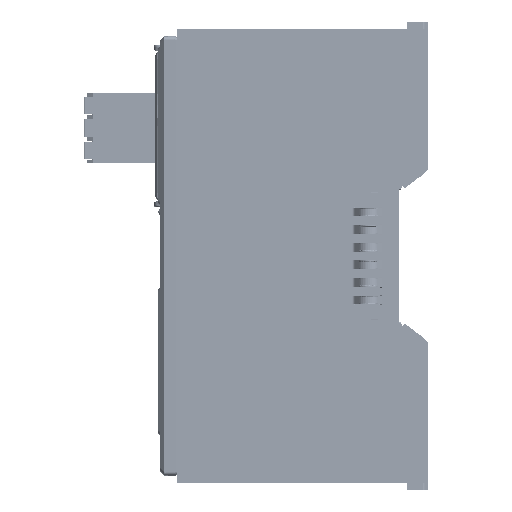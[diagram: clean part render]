
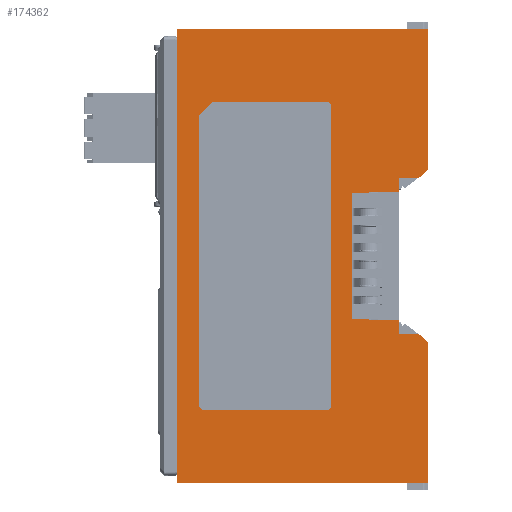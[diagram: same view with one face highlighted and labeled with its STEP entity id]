
A CAD part, left-side view. The second image highlights one B-rep face of the part: STEP entity #174362.
In plain terms, the highlighted planar face has unit normal (-1, 0, 0).
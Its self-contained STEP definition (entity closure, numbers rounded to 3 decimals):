
#5=DIRECTION('',(0.,0.,1.));
#6=VECTOR('',#5,31.68);
#7=CARTESIAN_POINT('',(-21.5,-28.5,19.82));
#8=LINE('',#7,#6);
#30=DIRECTION('',(0.,-1.,0.));
#31=VECTOR('',#30,57.);
#32=CARTESIAN_POINT('',(-21.5,28.5,51.5));
#33=LINE('',#32,#31);
#1424=CARTESIAN_POINT('',(-21.5,-28.2,-19.82));
#1425=DIRECTION('',(-1.,0.,0.));
#1426=DIRECTION('',(0.,-1.,0.));
#1427=AXIS2_PLACEMENT_3D('',#1424,#1425,#1426);
#1429=DIRECTION('',(0.,-1.,0.));
#1430=VECTOR('',#1429,57.);
#1431=CARTESIAN_POINT('',(-21.5,28.5,-51.5));
#1432=LINE('',#1431,#1430);
#1433=DIRECTION('',(0.,0.,1.));
#1434=VECTOR('',#1433,103.);
#1435=CARTESIAN_POINT('',(-21.5,28.5,-51.5));
#1436=LINE('',#1435,#1434);
#1437=CARTESIAN_POINT('',(-21.5,-28.2,19.82));
#1438=DIRECTION('',(-1.,0.,0.));
#1439=DIRECTION('',(0.,-0.725,-0.688));
#1440=AXIS2_PLACEMENT_3D('',#1437,#1438,#1439);
#1442=DIRECTION('',(0.,-0.688,0.725));
#1443=VECTOR('',#1442,2.301);
#1444=CARTESIAN_POINT('',(-21.5,-26.834,17.945));
#1445=LINE('',#1444,#1443);
#1446=CARTESIAN_POINT('',(-21.5,-26.616,18.151));
#1447=DIRECTION('',(-1.,0.,0.));
#1448=DIRECTION('',(0.,-0.026,-1.));
#1449=AXIS2_PLACEMENT_3D('',#1446,#1447,#1448);
#1451=DIRECTION('',(0.,1.,-0.026));
#1452=VECTOR('',#1451,4.826);
#1453=CARTESIAN_POINT('',(-21.5,-26.624,17.851));
#1454=LINE('',#1453,#1452);
#1455=DIRECTION('',(0.,0.,-1.));
#1456=VECTOR('',#1455,3.113);
#1457=CARTESIAN_POINT('',(-21.5,-21.8,17.725));
#1458=LINE('',#1457,#1456);
#1459=DIRECTION('',(0.,1.,-0.026));
#1460=VECTOR('',#1459,10.704);
#1461=CARTESIAN_POINT('',(-21.5,-21.8,14.612));
#1462=LINE('',#1461,#1460);
#1463=DIRECTION('',(0.,0.,1.));
#1464=VECTOR('',#1463,28.663);
#1465=CARTESIAN_POINT('',(-21.5,-11.1,-14.331));
#1466=LINE('',#1465,#1464);
#1467=DIRECTION('',(0.,-1.,-0.026));
#1468=VECTOR('',#1467,10.704);
#1469=CARTESIAN_POINT('',(-21.5,-11.1,-14.331));
#1470=LINE('',#1469,#1468);
#1471=DIRECTION('',(0.,0.,-1.));
#1472=VECTOR('',#1471,3.113);
#1473=CARTESIAN_POINT('',(-21.5,-21.8,-14.612));
#1474=LINE('',#1473,#1472);
#1475=DIRECTION('',(0.,1.,0.026));
#1476=VECTOR('',#1475,4.826);
#1477=CARTESIAN_POINT('',(-21.5,-26.624,-17.851));
#1478=LINE('',#1477,#1476);
#1479=CARTESIAN_POINT('',(-21.5,-26.616,-18.151));
#1480=DIRECTION('',(-1.,0.,0.));
#1481=DIRECTION('',(0.,-0.725,0.688));
#1482=AXIS2_PLACEMENT_3D('',#1479,#1480,#1481);
#1484=DIRECTION('',(0.,0.688,0.725));
#1485=VECTOR('',#1484,2.301);
#1486=CARTESIAN_POINT('',(-21.5,-28.418,-19.614));
#1487=LINE('',#1486,#1485);
#1488=DIRECTION('',(0.,-1.,0.));
#1489=VECTOR('',#1488,28.);
#1490=CARTESIAN_POINT('',(-21.5,22.5,-35.));
#1491=LINE('',#1490,#1489);
#1492=DIRECTION('',(0.,0.,1.));
#1493=VECTOR('',#1492,68.);
#1494=CARTESIAN_POINT('',(-21.5,-6.5,-34.));
#1495=LINE('',#1494,#1493);
#1496=DIRECTION('',(0.,1.,0.));
#1497=VECTOR('',#1496,26.);
#1498=CARTESIAN_POINT('',(-21.5,-5.5,35.));
#1499=LINE('',#1498,#1497);
#1500=DIRECTION('',(0.,0.,-1.));
#1501=VECTOR('',#1500,66.);
#1502=CARTESIAN_POINT('',(-21.5,23.5,32.));
#1503=LINE('',#1502,#1501);
#1516=DIRECTION('',(0.,0.,1.));
#1517=VECTOR('',#1516,31.68);
#1518=CARTESIAN_POINT('',(-21.5,-28.5,-51.5));
#1519=LINE('',#1518,#1517);
#136823=CARTESIAN_POINT('',(-21.5,22.5,-34.));
#136824=DIRECTION('',(1.,0.,0.));
#136825=DIRECTION('',(0.,0.,-1.));
#136826=AXIS2_PLACEMENT_3D('',#136823,#136824,#136825);
#136871=DIRECTION('',(0.,-0.707,0.707));
#136872=VECTOR('',#136871,4.243);
#136873=CARTESIAN_POINT('',(-21.5,23.5,32.));
#136874=LINE('',#136873,#136872);
#136883=CARTESIAN_POINT('',(-21.5,-5.5,34.));
#136884=DIRECTION('',(1.,0.,0.));
#136885=DIRECTION('',(0.,0.,1.));
#136886=AXIS2_PLACEMENT_3D('',#136883,#136884,#136885);
#136896=CARTESIAN_POINT('',(-21.5,-5.5,-34.));
#136897=DIRECTION('',(1.,0.,0.));
#136898=DIRECTION('',(0.,-1.,0.));
#136899=AXIS2_PLACEMENT_3D('',#136896,#136897,#136898);
#136969=CARTESIAN_POINT('',(-21.5,-21.8,17.725));
#136970=CARTESIAN_POINT('',(-21.5,-21.8,14.612));
#136971=VERTEX_POINT('',#136969);
#136972=VERTEX_POINT('',#136970);
#136973=CARTESIAN_POINT('',(-21.5,-21.8,-14.612));
#136974=CARTESIAN_POINT('',(-21.5,-21.8,-17.725));
#136975=VERTEX_POINT('',#136973);
#136976=VERTEX_POINT('',#136974);
#137321=CARTESIAN_POINT('',(-21.5,28.5,51.5));
#137323=VERTEX_POINT('',#137321);
#137326=CARTESIAN_POINT('',(-21.5,28.5,-51.5));
#137328=VERTEX_POINT('',#137326);
#137329=CARTESIAN_POINT('',(-21.5,-28.5,51.5));
#137331=VERTEX_POINT('',#137329);
#137334=CARTESIAN_POINT('',(-21.5,-28.5,-51.5));
#137336=VERTEX_POINT('',#137334);
#137383=CARTESIAN_POINT('',(-21.5,-11.1,14.331));
#137384=VERTEX_POINT('',#137383);
#137387=CARTESIAN_POINT('',(-21.5,-11.1,-14.331));
#137388=VERTEX_POINT('',#137387);
#138806=CARTESIAN_POINT('',(-21.5,-28.5,-19.82));
#138807=CARTESIAN_POINT('',(-21.5,-28.418,-19.614));
#138808=VERTEX_POINT('',#138806);
#138809=VERTEX_POINT('',#138807);
#138818=CARTESIAN_POINT('',(-21.5,-26.834,-17.945));
#138819=VERTEX_POINT('',#138818);
#138820=CARTESIAN_POINT('',(-21.5,-26.624,-17.851));
#138821=VERTEX_POINT('',#138820);
#138874=CARTESIAN_POINT('',(-21.5,-28.418,19.614));
#138875=VERTEX_POINT('',#138874);
#138876=CARTESIAN_POINT('',(-21.5,-28.5,19.82));
#138877=VERTEX_POINT('',#138876);
#138878=CARTESIAN_POINT('',(-21.5,-26.624,17.851));
#138879=CARTESIAN_POINT('',(-21.5,-26.834,17.945));
#138880=VERTEX_POINT('',#138878);
#138881=VERTEX_POINT('',#138879);
#140063=CARTESIAN_POINT('',(-21.5,23.5,32.));
#140064=VERTEX_POINT('',#140063);
#140065=CARTESIAN_POINT('',(-21.5,20.5,35.));
#140066=VERTEX_POINT('',#140065);
#140071=CARTESIAN_POINT('',(-21.5,22.5,-35.));
#140072=VERTEX_POINT('',#140071);
#140073=CARTESIAN_POINT('',(-21.5,23.5,-34.));
#140074=VERTEX_POINT('',#140073);
#140079=CARTESIAN_POINT('',(-21.5,-6.5,-34.));
#140080=VERTEX_POINT('',#140079);
#140081=CARTESIAN_POINT('',(-21.5,-5.5,-35.));
#140082=VERTEX_POINT('',#140081);
#140087=CARTESIAN_POINT('',(-21.5,-5.5,35.));
#140088=VERTEX_POINT('',#140087);
#140089=CARTESIAN_POINT('',(-21.5,-6.5,34.));
#140090=VERTEX_POINT('',#140089);
#174306=CARTESIAN_POINT('',(-21.5,-28.5,-50.));
#174307=DIRECTION('',(-1.,0.,0.));
#174308=DIRECTION('',(0.,0.,1.));
#174309=AXIS2_PLACEMENT_3D('',#174306,#174307,#174308);
#174310=PLANE('',#174309);
#174311=ORIENTED_EDGE('',*,*,#174296,.F.);
#174313=ORIENTED_EDGE('',*,*,#174312,.F.);
#174315=ORIENTED_EDGE('',*,*,#174314,.F.);
#174316=ORIENTED_EDGE('',*,*,#173565,.T.);
#174317=ORIENTED_EDGE('',*,*,#173545,.T.);
#174318=ORIENTED_EDGE('',*,*,#173490,.F.);
#174319=ORIENTED_EDGE('',*,*,#173508,.F.);
#174321=ORIENTED_EDGE('',*,*,#174320,.F.);
#174323=ORIENTED_EDGE('',*,*,#174322,.F.);
#174325=ORIENTED_EDGE('',*,*,#174324,.T.);
#174327=ORIENTED_EDGE('',*,*,#174326,.T.);
#174329=ORIENTED_EDGE('',*,*,#174328,.T.);
#174331=ORIENTED_EDGE('',*,*,#174330,.F.);
#174333=ORIENTED_EDGE('',*,*,#174332,.T.);
#174335=ORIENTED_EDGE('',*,*,#174334,.T.);
#174337=ORIENTED_EDGE('',*,*,#174336,.F.);
#174339=ORIENTED_EDGE('',*,*,#174338,.F.);
#174341=ORIENTED_EDGE('',*,*,#174340,.F.);
#174342=EDGE_LOOP('',(#174311,#174313,#174315,#174316,#174317,#174318,#174319,
#174321,#174323,#174325,#174327,#174329,#174331,#174333,#174335,#174337,#174339,
#174341));
#174343=FACE_OUTER_BOUND('',#174342,.F.);
#174345=ORIENTED_EDGE('',*,*,#174344,.T.);
#174347=ORIENTED_EDGE('',*,*,#174346,.F.);
#174349=ORIENTED_EDGE('',*,*,#174348,.T.);
#174351=ORIENTED_EDGE('',*,*,#174350,.F.);
#174353=ORIENTED_EDGE('',*,*,#174352,.T.);
#174355=ORIENTED_EDGE('',*,*,#174354,.F.);
#174357=ORIENTED_EDGE('',*,*,#174356,.T.);
#174359=ORIENTED_EDGE('',*,*,#174358,.F.);
#174360=EDGE_LOOP('',(#174345,#174347,#174349,#174351,#174353,#174355,#174357,
#174359));
#174361=FACE_BOUND('',#174360,.F.);
#174362=ADVANCED_FACE('',(#174343,#174361),#174310,.T.);
#1428=CIRCLE('',#1427,0.3);
#1441=CIRCLE('',#1440,0.3);
#1450=CIRCLE('',#1449,0.3);
#1483=CIRCLE('',#1482,0.3);
#136827=CIRCLE('',#136826,1.);
#136887=CIRCLE('',#136886,1.);
#136900=CIRCLE('',#136899,1.);
#173490=EDGE_CURVE('',#138877,#137331,#8,.T.);
#173508=EDGE_CURVE('',#138875,#138877,#1441,.T.);
#173545=EDGE_CURVE('',#137323,#137331,#33,.T.);
#173565=EDGE_CURVE('',#137328,#137323,#1436,.T.);
#174296=EDGE_CURVE('',#138808,#138809,#1428,.T.);
#174312=EDGE_CURVE('',#137336,#138808,#1519,.T.);
#174314=EDGE_CURVE('',#137328,#137336,#1432,.T.);
#174320=EDGE_CURVE('',#138881,#138875,#1445,.T.);
#174322=EDGE_CURVE('',#138880,#138881,#1450,.T.);
#174324=EDGE_CURVE('',#138880,#136971,#1454,.T.);
#174326=EDGE_CURVE('',#136971,#136972,#1458,.T.);
#174328=EDGE_CURVE('',#136972,#137384,#1462,.T.);
#174330=EDGE_CURVE('',#137388,#137384,#1466,.T.);
#174332=EDGE_CURVE('',#137388,#136975,#1470,.T.);
#174334=EDGE_CURVE('',#136975,#136976,#1474,.T.);
#174336=EDGE_CURVE('',#138821,#136976,#1478,.T.);
#174338=EDGE_CURVE('',#138819,#138821,#1483,.T.);
#174340=EDGE_CURVE('',#138809,#138819,#1487,.T.);
#174344=EDGE_CURVE('',#140072,#140082,#1491,.T.);
#174346=EDGE_CURVE('',#140080,#140082,#136900,.T.);
#174348=EDGE_CURVE('',#140080,#140090,#1495,.T.);
#174350=EDGE_CURVE('',#140088,#140090,#136887,.T.);
#174352=EDGE_CURVE('',#140088,#140066,#1499,.T.);
#174354=EDGE_CURVE('',#140064,#140066,#136874,.T.);
#174356=EDGE_CURVE('',#140064,#140074,#1503,.T.);
#174358=EDGE_CURVE('',#140072,#140074,#136827,.T.);
